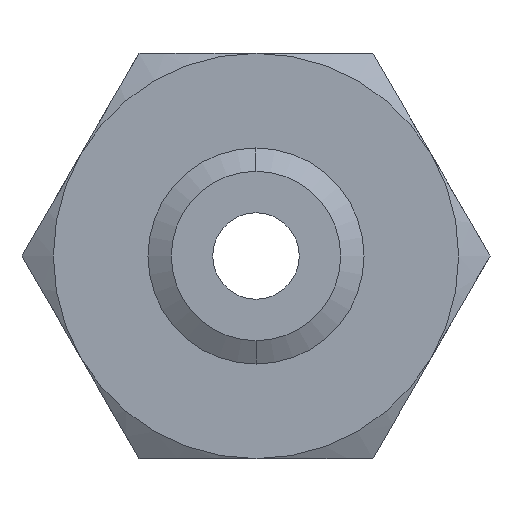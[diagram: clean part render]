
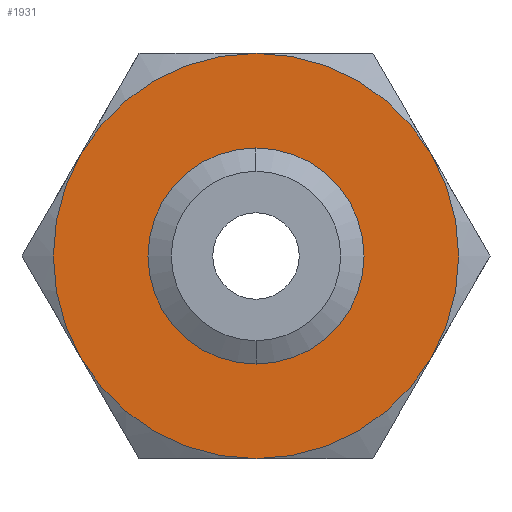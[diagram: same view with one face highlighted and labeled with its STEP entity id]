
A CAD part, front view. The second image highlights one B-rep face of the part: STEP entity #1931.
In plain terms, the highlighted planar face has unit normal (0, -1, 0).
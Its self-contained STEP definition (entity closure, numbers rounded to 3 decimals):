
#892 = CARTESIAN_POINT ( 'NONE',  ( 0., 0., 15.67 ) ) ;
#894 = CARTESIAN_POINT ( 'NONE',  ( 0., 0., -15.67 ) ) ;
#946 = DIRECTION ( 'NONE',  ( 0., 0., -1. ) ) ;
#947 = DIRECTION ( 'NONE',  ( 0., -1., 0. ) ) ;
#948 = CARTESIAN_POINT ( 'NONE',  ( 0., 0., 0. ) ) ;
#949 = AXIS2_PLACEMENT_3D ( 'NONE', #948, #947, #946 ) ;
#950 = CIRCLE ( 'NONE', #949, 15.67 ) ;
#1199 = CARTESIAN_POINT ( 'NONE',  ( 0., 0., 0. ) ) ;
#1200 = DIRECTION ( 'NONE',  ( 0., 0., 1. ) ) ;
#1201 = DIRECTION ( 'NONE',  ( 0., 1., 0. ) ) ;
#1202 = CARTESIAN_POINT ( 'NONE',  ( 0., 0., 0. ) ) ;
#1203 = AXIS2_PLACEMENT_3D ( 'NONE', #1202, #1201, #1200 ) ;
#1204 = CIRCLE ( 'NONE', #1203, 37.5 ) ;
#1205 = CARTESIAN_POINT ( 'NONE',  ( -32.476, 0., 18.75 ) ) ;
#1206 = DIRECTION ( 'NONE',  ( 0., 0., -1. ) ) ;
#1207 = DIRECTION ( 'NONE',  ( 0., -1., 0. ) ) ;
#1208 = CARTESIAN_POINT ( 'NONE',  ( 0., 0., 0. ) ) ;
#1209 = AXIS2_PLACEMENT_3D ( 'NONE', #1208, #1207, #1206 ) ;
#1210 = CIRCLE ( 'NONE', #1209, 15.67 ) ;
#1211 = DIRECTION ( 'NONE',  ( 0., 0., 1. ) ) ;
#1212 = DIRECTION ( 'NONE',  ( 0., 1., 0. ) ) ;
#1213 = CARTESIAN_POINT ( 'NONE',  ( 0., 0., 0. ) ) ;
#1214 = AXIS2_PLACEMENT_3D ( 'NONE', #1213, #1212, #1211 ) ;
#1215 = CIRCLE ( 'NONE', #1214, 37.5 ) ;
#1216 = CARTESIAN_POINT ( 'NONE',  ( 32.476, 0., -18.75 ) ) ;
#1217 = DIRECTION ( 'NONE',  ( 0., 0., 1. ) ) ;
#1218 = DIRECTION ( 'NONE',  ( 0., 1., 0. ) ) ;
#1219 = CARTESIAN_POINT ( 'NONE',  ( 0., 0., 0. ) ) ;
#1220 = AXIS2_PLACEMENT_3D ( 'NONE', #1219, #1218, #1217 ) ;
#1221 = CIRCLE ( 'NONE', #1220, 37.5 ) ;
#1222 = CARTESIAN_POINT ( 'NONE',  ( 0., 0., -37.5 ) ) ;
#1227 = CARTESIAN_POINT ( 'NONE',  ( -32.476, 0., -18.75 ) ) ;
#1242 = DIRECTION ( 'NONE',  ( 0., 0., 1. ) ) ;
#1243 = DIRECTION ( 'NONE',  ( 0., 1., 0. ) ) ;
#1244 = CARTESIAN_POINT ( 'NONE',  ( 0., 0., 0. ) ) ;
#1245 = AXIS2_PLACEMENT_3D ( 'NONE', #1244, #1243, #1242 ) ;
#1246 = CIRCLE ( 'NONE', #1245, 37.5 ) ;
#1251 = DIRECTION ( 'NONE',  ( 0., 0., 1. ) ) ;
#1252 = DIRECTION ( 'NONE',  ( 0., 1., 0. ) ) ;
#1253 = CARTESIAN_POINT ( 'NONE',  ( 0., 0., 0. ) ) ;
#1254 = AXIS2_PLACEMENT_3D ( 'NONE', #1253, #1252, #1251 ) ;
#1255 = CIRCLE ( 'NONE', #1254, 37.5 ) ;
#1256 = CARTESIAN_POINT ( 'NONE',  ( 32.476, 0., 18.75 ) ) ;
#1257 = DIRECTION ( 'NONE',  ( 0., 0., 1. ) ) ;
#1258 = DIRECTION ( 'NONE',  ( 0., 1., 0. ) ) ;
#1259 = AXIS2_PLACEMENT_3D ( 'NONE', #1199, #1258, #1257 ) ;
#1260 = CIRCLE ( 'NONE', #1259, 37.5 ) ;
#1291 = CARTESIAN_POINT ( 'NONE',  ( 0., 0., 37.5 ) ) ;
#1316 = DIRECTION ( 'NONE',  ( 0., 0., 1. ) ) ;
#1317 = DIRECTION ( 'NONE',  ( 0., 1., 0. ) ) ;
#1319 = CARTESIAN_POINT ( 'NONE',  ( 21.651, 0., -37.5 ) ) ;
#1320 = AXIS2_PLACEMENT_3D ( 'NONE', #1319, #1317, #1316 ) ;
#1321 = PLANE ( 'NONE',  #1320 ) ;
#1322 = FACE_BOUND ( 'NONE', #1885, .T. ) ;
#1323 = FACE_OUTER_BOUND ( 'NONE', #1910, .T. ) ;
#1711 = VERTEX_POINT ( 'NONE', #894 ) ;
#1712 = VERTEX_POINT ( 'NONE', #892 ) ;
#1713 = EDGE_CURVE ( 'NONE', #1711, #1712, #950, .T. ) ;
#1875 = ORIENTED_EDGE ( 'NONE', *, *, #1895, .F. ) ;
#1877 = VERTEX_POINT ( 'NONE', #1227 ) ;
#1880 = VERTEX_POINT ( 'NONE', #1222 ) ;
#1881 = ORIENTED_EDGE ( 'NONE', *, *, #1882, .F. ) ;
#1882 = EDGE_CURVE ( 'NONE', #1883, #1880, #1221, .T. ) ;
#1883 = VERTEX_POINT ( 'NONE', #1216 ) ;
#1884 = ORIENTED_EDGE ( 'NONE', *, *, #1886, .F. ) ;
#1885 = EDGE_LOOP ( 'NONE', ( #1888, #1889 ) ) ;
#1886 = EDGE_CURVE ( 'NONE', #1894, #1883, #1215, .T. ) ;
#1887 = EDGE_CURVE ( 'NONE', #1712, #1711, #1210, .T. ) ;
#1888 = ORIENTED_EDGE ( 'NONE', *, *, #1713, .F. ) ;
#1889 = ORIENTED_EDGE ( 'NONE', *, *, #1887, .F. ) ;
#1890 = EDGE_CURVE ( 'NONE', #1880, #1877, #1204, .T. ) ;
#1891 = ORIENTED_EDGE ( 'NONE', *, *, #1890, .F. ) ;
#1892 = VERTEX_POINT ( 'NONE', #1205 ) ;
#1893 = EDGE_CURVE ( 'NONE', #1892, #1913, #1260, .T. ) ;
#1894 = VERTEX_POINT ( 'NONE', #1256 ) ;
#1895 = EDGE_CURVE ( 'NONE', #1913, #1894, #1255, .T. ) ;
#1898 = EDGE_CURVE ( 'NONE', #1877, #1892, #1246, .T. ) ;
#1899 = ORIENTED_EDGE ( 'NONE', *, *, #1898, .F. ) ;
#1900 = ORIENTED_EDGE ( 'NONE', *, *, #1893, .F. ) ;
#1910 = EDGE_LOOP ( 'NONE', ( #1875, #1900, #1899, #1891, #1881, #1884 ) ) ;
#1913 = VERTEX_POINT ( 'NONE', #1291 ) ;
#1931 = ADVANCED_FACE ( 'NONE', ( #1323, #1322 ), #1321, .F. ) ;
